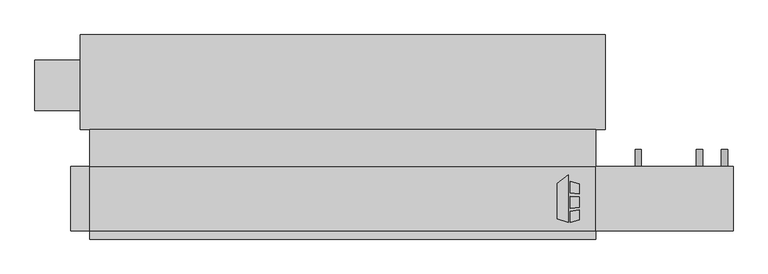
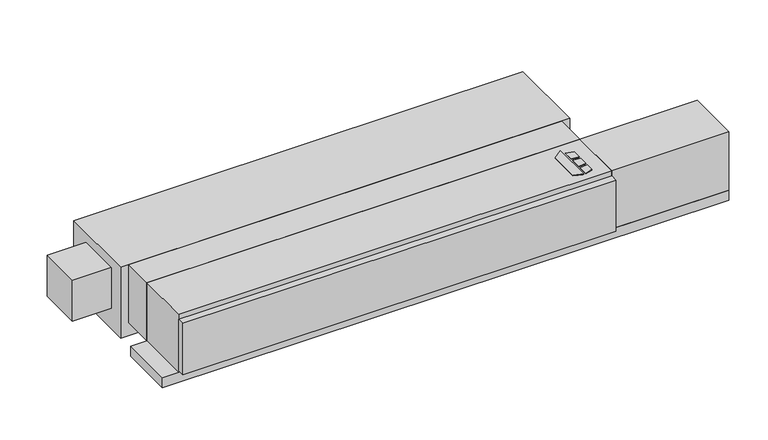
"""IFC4 building model written with IfcOpenShell, lengths in millimetres: proxy geometry, Concealed_Horizontal_Fan_Coil_Unit_With_Plenum_-_CPF_-_IEC_-_2-Pipe_RH : Size 12 - 115v/60Hz/1Ph - 4/1 Coil."""

from ifc_helpers import new_model, si_unit, point, frame, frame_2d, origin, origin_with_axes, place, context, project, spatial, polyline, circle_curve, trimmed, segment, composite_curve, outline, extrude, source, transform, mapped, element, save


def mechanical_equipment_2a905be4(model_context):
    return source(origin(), model_context, "Body", "SweptSolid", [
        extrude(outline(polyline([(798.2019761, -193.0453476), (830.7602728, -167.6080184), (830.7602728, -309.5625), (798.2019761, -299.3429201), (798.2019761, -193.0453476)])), origin_with_axes(), (0.0, 0.0, 1.0), 3.175),
        extrude(outline(polyline([(837.5186058, -220.917352), (837.5186058, -186.4374379), (863.6, -194.6240115), (863.6, -224.1197446), (837.5186058, -220.917352)])), origin_with_axes(), (0.0, 0.0, 1.0), 3.175),
        extrude(outline(polyline([(863.6, -302.5740115), (837.5186058, -309.5625), (837.5186058, -276.3411996), (863.6, -272.7993564), (863.6, -302.5740115)])), origin_with_axes(), (0.0, 0.0, 1.0), 3.175),
        extrude(outline(polyline([(863.6, -233.2013277), (863.6, -264.451483), (837.5186058, -267.192748), (837.5186058, -231.3350378), (863.6, -233.2013277)])), origin_with_axes(), (0.0, 0.0, 1.0), 3.175),
        extrude(outline(polyline([(-609.6, -30.1625), (914.4, -30.1625), (914.4, -141.2875), (-609.6, -141.2875), (-609.6, -30.1625)])), frame((0.0, 0.0, -215.9), z_axis=(0.0, 0.0, 1.0), x_axis=(1.0, 0.0, 0.0)), (0.0, 0.0, 1.0), 215.9),
        extrude(outline(composite_curve([segment(trimmed(circle_curve(frame_2d((-158.75, 1225.55)), 9.525), [point((-158.75, 1235.075))], [point((-158.75, 1216.025))], False, "CARTESIAN"), True, "CONTINUOUS"), segment(trimmed(circle_curve(frame_2d((-158.75, 1225.55)), 9.525), [point((-158.75, 1216.025))], [point((-158.75, 1235.075))], False, "CARTESIAN"), True, "CONTINUOUS")], self_intersect=False)), frame((0.0, -141.2875, 0.0), z_axis=(0.0, 1.0, 0.0), x_axis=(0.0, 0.0, 1.0)), (0.0, 0.0, 1.0), 50.8),
        extrude(outline(composite_curve([segment(trimmed(circle_curve(frame_2d((-158.75, 1041.4)), 9.525), [point((-158.75, 1050.925))], [point((-158.75, 1031.875))], False, "CARTESIAN"), True, "CONTINUOUS"), segment(trimmed(circle_curve(frame_2d((-158.75, 1041.4)), 9.525), [point((-158.75, 1031.875))], [point((-158.75, 1050.925))], False, "CARTESIAN"), True, "CONTINUOUS")], self_intersect=False)), frame((0.0, -141.2875, 0.0), z_axis=(0.0, 1.0, 0.0), x_axis=(0.0, 0.0, 1.0)), (0.0, 0.0, 1.0), 50.8),
        extrude(outline(polyline([(1327.15, -141.2875), (1327.15, -334.9625), (914.4, -334.9625), (914.4, -141.2875), (1327.15, -141.2875)])), frame((0.0, 0.0, -215.9), z_axis=(0.0, 0.0, 1.0), x_axis=(1.0, 0.0, 0.0)), (0.0, 0.0, 1.0), 215.9),
        extrude(outline(composite_curve([segment(trimmed(circle_curve(frame_2d((-241.3, 1301.75)), 9.525), [point((-241.3, 1292.225))], [point((-241.3, 1311.275))], False, "CARTESIAN"), True, "CONTINUOUS"), segment(trimmed(circle_curve(frame_2d((-241.3, 1301.75)), 9.525), [point((-241.3, 1311.275))], [point((-241.3, 1292.225))], False, "CARTESIAN"), True, "CONTINUOUS")], self_intersect=False)), frame((0.0, -141.2875, 0.0), z_axis=(0.0, 1.0, 0.0), x_axis=(0.0, 0.0, 1.0)), (0.0, 0.0, 1.0), 50.8),
        extrude(outline(polyline([(914.4, -334.9625), (914.4, -360.3625), (-609.6, -360.3625), (-609.6, -334.9625), (914.4, -334.9625)])), frame((0.0, 0.0, -209.55), z_axis=(0.0, 0.0, 1.0), x_axis=(1.0, 0.0, 0.0)), (0.0, 0.0, 1.0), 190.5),
        extrude(outline(polyline([(914.4, -334.9625), (-609.6, -334.9625), (-609.6, -141.2875), (914.4, -141.2875), (914.4, -334.9625)])), frame((0.0, 0.0, -215.9), z_axis=(0.0, 0.0, 1.0), x_axis=(1.0, 0.0, 0.0)), (0.0, 0.0, 1.0), 215.9),
        extrude(outline(polyline([(1327.15, -141.2875), (1327.15, -334.9625), (-666.75, -334.9625), (-666.75, -141.2875), (1327.15, -141.2875)])), frame((0.0, 0.0, -254.0), z_axis=(0.0, 0.0, 1.0), x_axis=(1.0, 0.0, 0.0)), (0.0, 0.0, 1.0), 38.1),
        extrude(outline(polyline([(-774.7, 26.9875), (-774.7, 179.3875), (-638.175, 179.3875), (-638.175, 26.9875), (-774.7, 26.9875)])), frame((0.0, 0.0, -187.325), z_axis=(0.0, 0.0, 1.0), x_axis=(1.0, 0.0, 0.0)), (0.0, 0.0, 1.0), 152.4),
        extrude(outline(polyline([(-638.175, 255.5875), (942.975, 255.5875), (942.975, -30.1625), (-638.175, -30.1625), (-638.175, 255.5875)])), frame((0.0, 0.0, -263.525), z_axis=(0.0, 0.0, 1.0), x_axis=(1.0, 0.0, 0.0)), (0.0, 0.0, 1.0), 263.525),
    ])


if __name__ == "__main__":
    model = new_model("IFC4")
    model_context = context("Model", 3, world=origin())
    ifc_project = project(units=[si_unit("LENGTHUNIT", "METRE", prefix="MILLI")], contexts=[model_context])
    site = spatial("IfcSite", under=ifc_project)
    building = spatial("IfcBuilding", under=site)
    placement = place(None, origin())
    mechanical_equipment_shape = mechanical_equipment_2a905be4(model_context)
    element("IfcBuildingElementProxy", 1, Name="Concealed_Horizontal_Fan_Coil_Unit_With_Plenum_-_CPF_-_IEC_-_2-Pipe_RH : Size 12 - 115v/60Hz/1Ph - 4/1 Coil", ObjectType="Concealed_Horizontal_Fan_Coil_Unit_With_Plenum_-_CPF_-_IEC_-_2-Pipe_RH : Size 12 - 115v/60Hz/1Ph - 4/1 Coil", at=placement, inside=building, context=model_context, shape_type="MappedRepresentation", body=[
        mapped(mechanical_equipment_shape, transform((0.0, 0.0, 0.0), x_axis=(1.0, 0.0, 0.0), y_axis=(0.0, 1.0, 0.0), z_axis=(0.0, 0.0, 1.0))),
    ])
    save(model, "model.ifc")
